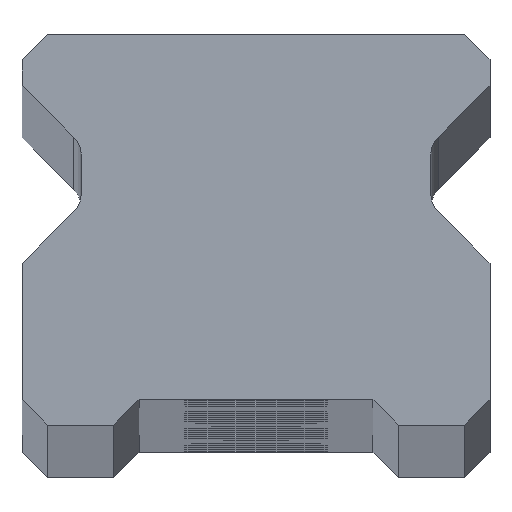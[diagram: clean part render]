
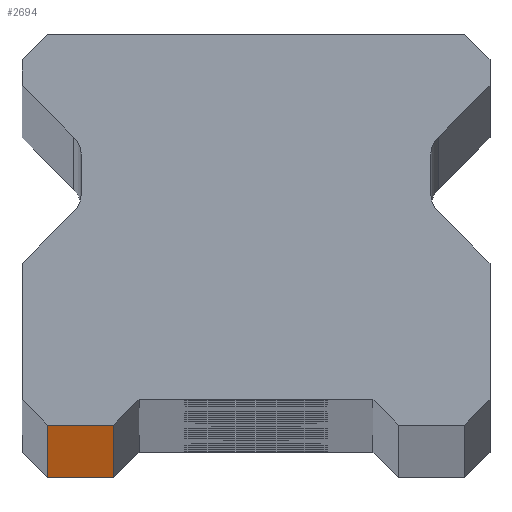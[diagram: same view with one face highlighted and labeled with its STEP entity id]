
A CAD part, top view. The second image highlights one B-rep face of the part: STEP entity #2694.
In plain terms, the highlighted planar face has unit normal (0, -1, 0).
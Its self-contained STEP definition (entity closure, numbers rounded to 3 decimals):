
#38 = EDGE_CURVE ( 'NONE', #3492, #2674, #4072, .T. ) ;
#194 = DIRECTION ( 'NONE',  ( 0., 1., 0. ) ) ;
#410 = CARTESIAN_POINT ( 'NONE',  ( -10.25, 0., -740. ) ) ;
#428 = LINE ( 'NONE', #3074, #2040 ) ;
#443 = DIRECTION ( 'NONE',  ( 0., 0., -1. ) ) ;
#606 = VECTOR ( 'NONE', #3962, 1000. ) ;
#858 = DIRECTION ( 'NONE',  ( -1., 0., 0. ) ) ;
#900 = LINE ( 'NONE', #4652, #606 ) ;
#1296 = DIRECTION ( 'NONE',  ( 1., 0., 0. ) ) ;
#1464 = CARTESIAN_POINT ( 'NONE',  ( -7., 0., -740. ) ) ;
#1571 = ORIENTED_EDGE ( 'NONE', *, *, #38, .T. ) ;
#1603 = CARTESIAN_POINT ( 'NONE',  ( 11.5, 0., 740. ) ) ;
#1648 = EDGE_CURVE ( 'NONE', #2943, #2674, #428, .T. ) ;
#1916 = CARTESIAN_POINT ( 'NONE',  ( -10.25, 0., 740. ) ) ;
#2031 = EDGE_CURVE ( 'NONE', #2943, #3695, #3828, .T. ) ;
#2040 = VECTOR ( 'NONE', #1296, 1000. ) ;
#2061 = EDGE_CURVE ( 'NONE', #3695, #3492, #900, .T. ) ;
#2182 = ORIENTED_EDGE ( 'NONE', *, *, #2031, .T. ) ;
#2514 = ORIENTED_EDGE ( 'NONE', *, *, #1648, .F. ) ;
#2563 = AXIS2_PLACEMENT_3D ( 'NONE', #1603, #194, #858 ) ;
#2674 = VERTEX_POINT ( 'NONE', #3671 ) ;
#2685 = DIRECTION ( 'NONE',  ( 0., 0., 1. ) ) ;
#2694 = ADVANCED_FACE ( 'NONE', ( #3362 ), #4189, .F. ) ;
#2943 = VERTEX_POINT ( 'NONE', #3801 ) ;
#3074 = CARTESIAN_POINT ( 'NONE',  ( 11.5, 0., 740. ) ) ;
#3086 = EDGE_LOOP ( 'NONE', ( #3792, #1571, #2514, #2182 ) ) ;
#3362 = FACE_OUTER_BOUND ( 'NONE', #3086, .T. ) ;
#3378 = VECTOR ( 'NONE', #2685, 1000. ) ;
#3449 = CARTESIAN_POINT ( 'NONE',  ( -7., 0., -740. ) ) ;
#3492 = VERTEX_POINT ( 'NONE', #1464 ) ;
#3671 = CARTESIAN_POINT ( 'NONE',  ( -7., 0., 740. ) ) ;
#3695 = VERTEX_POINT ( 'NONE', #410 ) ;
#3792 = ORIENTED_EDGE ( 'NONE', *, *, #2061, .T. ) ;
#3801 = CARTESIAN_POINT ( 'NONE',  ( -10.25, 0., 740. ) ) ;
#3828 = LINE ( 'NONE', #1916, #4624 ) ;
#3962 = DIRECTION ( 'NONE',  ( 1., 0., 0. ) ) ;
#4072 = LINE ( 'NONE', #3449, #3378 ) ;
#4189 = PLANE ( 'NONE',  #2563 ) ;
#4624 = VECTOR ( 'NONE', #443, 1000. ) ;
#4652 = CARTESIAN_POINT ( 'NONE',  ( 11.5, 0., -740. ) ) ;
